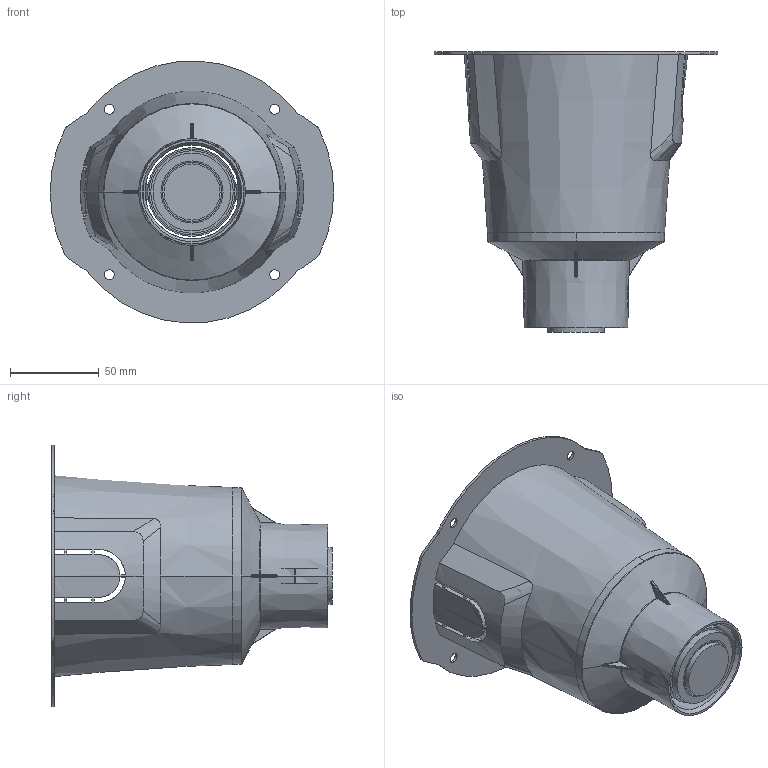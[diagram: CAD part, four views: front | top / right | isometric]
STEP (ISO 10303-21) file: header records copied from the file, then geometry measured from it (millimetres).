
FILE_DESCRIPTION((''),'2;1');
FILE_NAME('00-R2IR0125-065000_ASM','2024-08-30T14:38:59',('C029'),(''),'CREO PARAMETRIC BY PTC INC, 2021063','CREO PARAMETRIC BY PTC INC, 2021063','');
FILE_SCHEMA(('CONFIG_CONTROL_DESIGN'));
Length unit declared in the file: inch
Products named in the file (19): 2I__2; HOUGAI_2; KAHUANG_2; MUZUHE_2; 12A_1_114_2; PRT0001_2; 2I-0_2; 0-RING_2; 2I-1_2; YATAO_2; BOLI-0_2; R7_2; ASM0001_ASM_2_ASM; 2YA-_W_I___D___1_ANY_6; 7DB_____M_1_ANY_6; 2IA-B11-___P-____70-2_1_ANY_5; A07_ASM_5_ASM; 00-R2IR0125-A07000_ASM; 00-R2IR0125-065000_ASM
Assembly tree (18 placements, depth 4):
  00-R2IR0125-065000_ASM
    ASM0001_ASM_2_ASM
      2I__2
      HOUGAI_2
      KAHUANG_2
      MUZUHE_2
      12A_1_114_2
      PRT0001_2
      2I-0_2
      0-RING_2
      2I-1_2
      YATAO_2
      BOLI-0_2
      R7_2
    00-R2IR0125-A07000_ASM
      A07_ASM_5_ASM
        2YA-_W_I___D___1_ANY_6
        7DB_____M_1_ANY_6
        2IA-B11-___P-____70-2_1_ANY_5
Bounding box: 160.03 x 158.24 x 147.74 mm (x, y, z)
Volume: 245755.7 mm3; surface area: 201288.6 mm2
Topology: 15 solids, 15 shells, 1001 faces, 2648 edges, 1710 vertices
Faces by surface type: plane 486, cylinder 267, cone 133, bspline 74, torus 33, sphere 8
Entity records: 44130 total; most frequent: CARTESIAN_POINT 19809, ORIENTED_EDGE 5280, DIRECTION 4647, EDGE_CURVE 2640, AXIS2_PLACEMENT_3D 1801, VERTEX_POINT 1710, EDGE_LOOP 1118, VECTOR 1045
